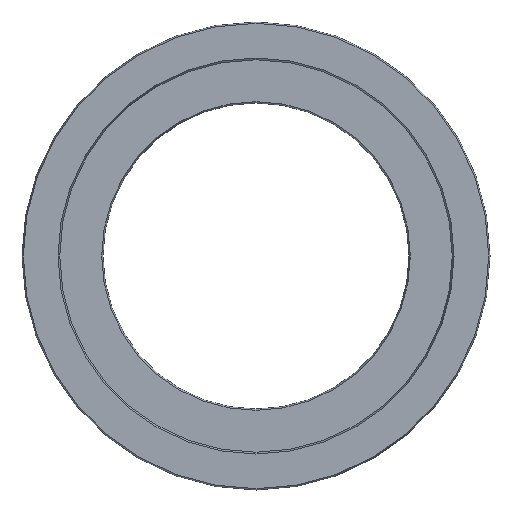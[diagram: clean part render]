
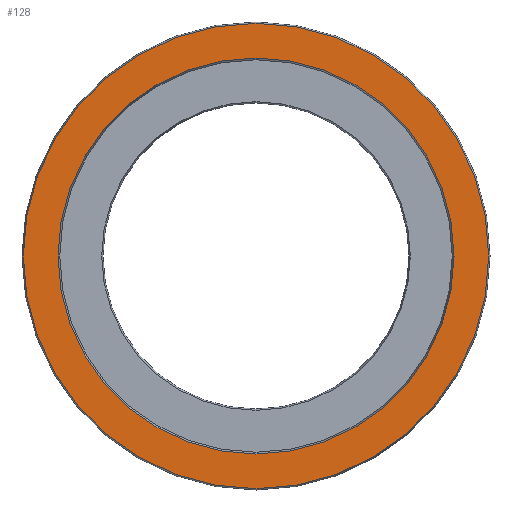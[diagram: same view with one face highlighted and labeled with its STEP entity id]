
A CAD part, left-side view. The second image highlights one B-rep face of the part: STEP entity #128.
In plain terms, the highlighted planar face has unit normal (-1, 0, 0).
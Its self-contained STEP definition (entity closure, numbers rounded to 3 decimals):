
#128=ADVANCED_FACE('',(#175,#176),#145,.T.);
#145=PLANE('',#412);
#175=FACE_BOUND('',#227,.T.);
#176=FACE_BOUND('',#228,.T.);
#227=EDGE_LOOP('',(#279));
#228=EDGE_LOOP('',(#280));
#279=ORIENTED_EDGE('',*,*,#344,.T.);
#280=ORIENTED_EDGE('',*,*,#345,.F.);
#318=VERTEX_POINT('',#583);
#319=VERTEX_POINT('',#585);
#344=EDGE_CURVE('',#318,#318,#370,.T.);
#345=EDGE_CURVE('',#319,#319,#371,.T.);
#370=CIRCLE('',#410,64.636);
#371=CIRCLE('',#411,55.);
#410=AXIS2_PLACEMENT_3D('',#582,#490,#491);
#411=AXIS2_PLACEMENT_3D('',#584,#492,#493);
#412=AXIS2_PLACEMENT_3D('',#586,#494,#495);
#490=DIRECTION('',(-1.,0.,0.));
#491=DIRECTION('',(0.,0.,1.));
#492=DIRECTION('',(-1.,0.,0.));
#493=DIRECTION('',(0.,0.,1.));
#494=DIRECTION('',(-1.,0.,0.));
#495=DIRECTION('',(0.,0.,1.));
#582=CARTESIAN_POINT('',(0.,0.,0.));
#583=CARTESIAN_POINT('',(0.,0.,64.636));
#584=CARTESIAN_POINT('',(0.,0.,0.));
#585=CARTESIAN_POINT('',(0.,0.,55.));
#586=CARTESIAN_POINT('',(0.,55.,0.));
